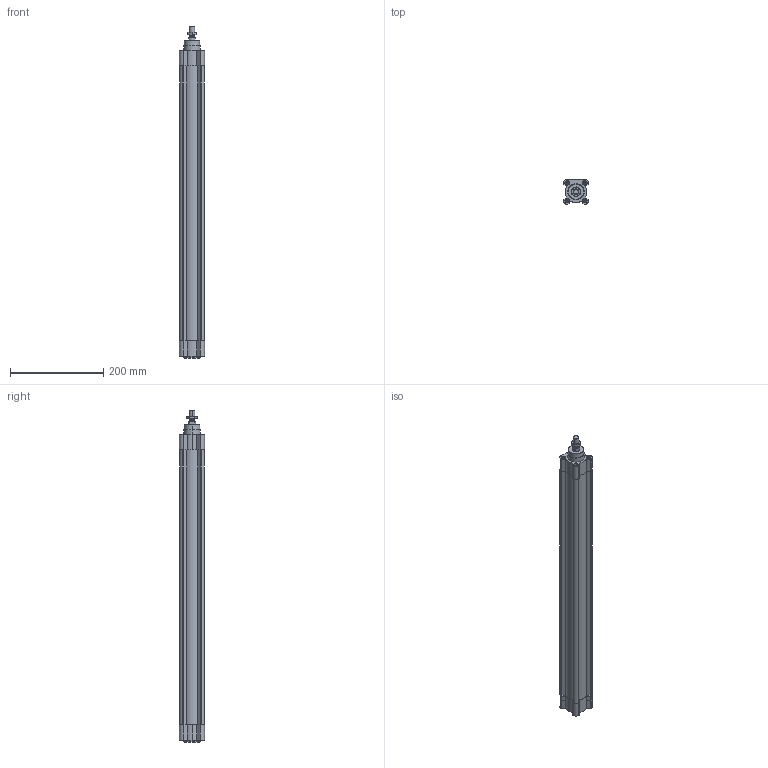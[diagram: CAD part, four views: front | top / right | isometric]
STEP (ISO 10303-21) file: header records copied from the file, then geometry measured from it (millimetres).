
FILE_DESCRIPTION (( 'STEP AP203' ), '1' );
FILE_NAME ('CPME40-552.STEP', '2024-10-17T14:30:29', ( '' ), ( '' ), 'SwSTEP 2.0', 'SolidWorks 2019', '' );
FILE_SCHEMA (( 'CONFIG_CONTROL_DESIGN' ));
Length unit declared in the file: millimetre
Products named in the file (1): CPME40-552
Bounding box: 54 x 54 x 713.9 mm (x, y, z)
Volume: 839270.7 mm3; surface area: 300876 mm2
Topology: 3 solids, 3 shells, 629 faces, 1625 edges, 1030 vertices
Faces by surface type: plane 319, cylinder 196, cone 106, torus 8
Entity records: 19673 total; most frequent: CARTESIAN_POINT 4365, ORIENTED_EDGE 3218, DIRECTION 3129, EDGE_CURVE 1609, AXIS2_PLACEMENT_3D 1113, VERTEX_POINT 1030, VECTOR 903, LINE 903
